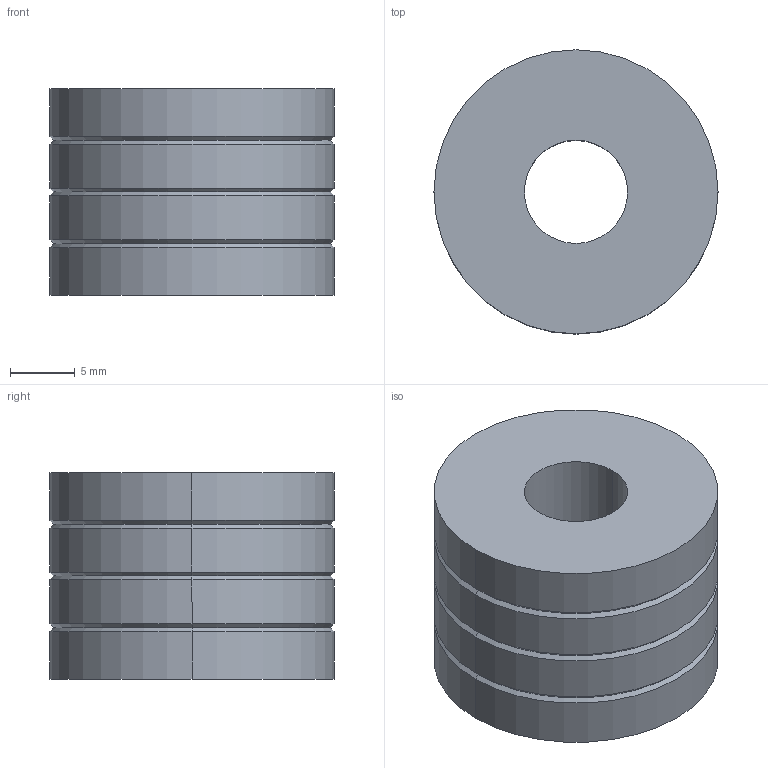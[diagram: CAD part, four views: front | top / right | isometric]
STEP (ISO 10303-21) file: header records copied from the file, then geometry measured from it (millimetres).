
FILE_DESCRIPTION(/* description */ (''),/* implementation_level */ '2;1');
FILE_NAME(/* name */ '3d_sgbl16-16_00006_r00.stp',/* time_stamp */ '2011-01-10T14:11:13+09:00',/* author */ ('MISUMI'),/* organization */ (''),/* preprocessor_version */ 'ST-DEVELOPER v11',/* originating_system */ 'UGS - NX 5.0',/* authorisation */ '');
FILE_SCHEMA (('CONFIG_CONTROL_DESIGN'));
Length unit declared in the file: millimetre
Products named in the file (1): 3d_sgbl16-16_00006_r00
Bounding box: 22 x 22 x 16 mm (x, y, z)
Volume: 5259.4 mm3; surface area: 2216.8 mm2
Topology: 1 solids, 1 shells, 24 faces, 48 edges, 26 vertices
Faces by surface type: cone 12, cylinder 10, plane 2
Entity records: 704 total; most frequent: DIRECTION 124, CARTESIAN_POINT 99, ORIENTED_EDGE 96, AXIS2_PLACEMENT_3D 51, EDGE_CURVE 48, EDGE_LOOP 26, VERTEX_POINT 26, CIRCLE 26
